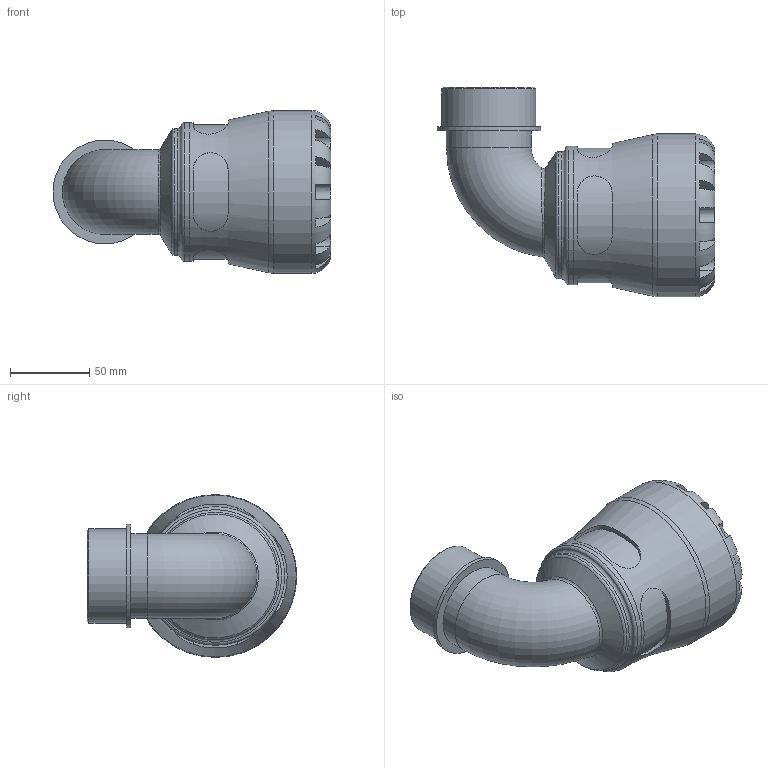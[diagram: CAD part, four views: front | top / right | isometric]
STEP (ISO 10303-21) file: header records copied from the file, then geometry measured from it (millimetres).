
FILE_DESCRIPTION(/* description */ ('PLASSON 90° ELBOW WITH THREADED MALE OFFTAKE 63X2" SERIES 1'),/* implementation_level */ '2;1');
FILE_NAME(/* name */ 'C:\Dropbox\KIMPROJECTS-Inventor\99-16-3568-Processing\1085\108500063020_198500063020.ipt.stp',/* time_stamp */ '2017-01-22T11:49:41+02:00',/* author */ ('KIM'),/* organization */ (''),/* preprocessor_version */ 'ST-DEVELOPER v15.6',/* originating_system */ 'Autodesk Inventor 2015',/* authorisation */ '');
FILE_SCHEMA (('AUTOMOTIVE_DESIGN { 1 0 10303 214 3 1 1 }'));
Length unit declared in the file: millimetre
Products named in the file (1): 108500063020_198500063020
Bounding box: 175.79 x 132.5 x 103 mm (x, y, z)
Volume: 523769.9 mm3; surface area: 95890.1 mm2
Topology: 1 solids, 1 shells, 110 faces, 269 edges, 167 vertices
Faces by surface type: plane 61, cylinder 37, torus 7, bspline 3, cone 2
Full cylindrical faces by diameter (mm): 41.73 x2, 53.653 x1, 59.614 x1, 63 x1, 65.575 x1, 80.34 x1, 87.55 x1, 103 x1
Entity records: 4379 total; most frequent: CARTESIAN_POINT 1839, ORIENTED_EDGE 488, DIRECTION 487, EDGE_CURVE 244, AXIS2_PLACEMENT_3D 203, VERTEX_POINT 161, EDGE_LOOP 137, STYLED_ITEM 111
